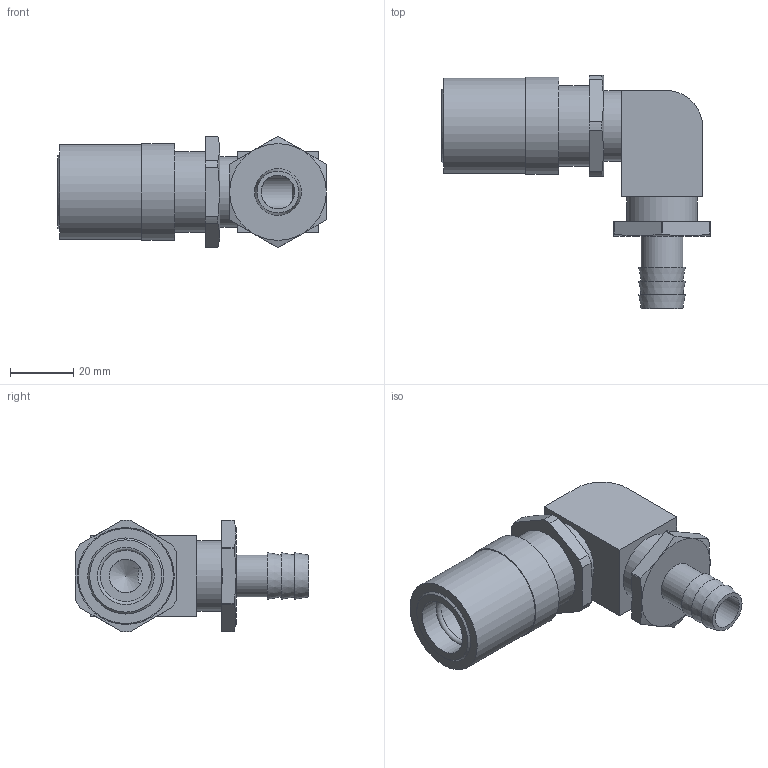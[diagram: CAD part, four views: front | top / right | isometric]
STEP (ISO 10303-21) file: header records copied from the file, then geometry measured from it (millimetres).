
FILE_DESCRIPTION(/* description */ ('STEP AP214'),/* implementation_level */ '2;1');
FILE_NAME(/* name */ 'JS-514-V',/* time_stamp */ '2024-12-19T08:41:55+01:00',/* author */ ('License CC BY-ND 4.0'),/* organization */ ('CADENAS'),/* preprocessor_version */ 'ST-DEVELOPER v19.3',/* originating_system */ 'PARTsolutions',/* authorisation */ ' ');
FILE_SCHEMA (('AUTOMOTIVE_DESIGN {1 0 10303 214 3 1 1}'));
Length unit declared in the file: inch
Products named in the file (1): JS-514-V
Bounding box: 84.72 x 73.52 x 35.18 mm (x, y, z)
Volume: 53581.4 mm3; surface area: 18573.5 mm2
Topology: 1 solids, 1 shells, 71 faces, 167 edges, 109 vertices
Faces by surface type: plane 34, cylinder 24, cone 12, torus 1
Full cylindrical faces by diameter (mm): 10.566 x1, 10.668 x1, 13.208 x1, 17.983 x2, 22.225 x2, 25.4 x1, 29.972 x1, 30.571 x1
Entity records: 1986 total; most frequent: CARTESIAN_POINT 414, DIRECTION 328, ORIENTED_EDGE 284, EDGE_CURVE 142, AXIS2_PLACEMENT_3D 136, VERTEX_POINT 102, FACE_BOUND 102, EDGE_LOOP 101
